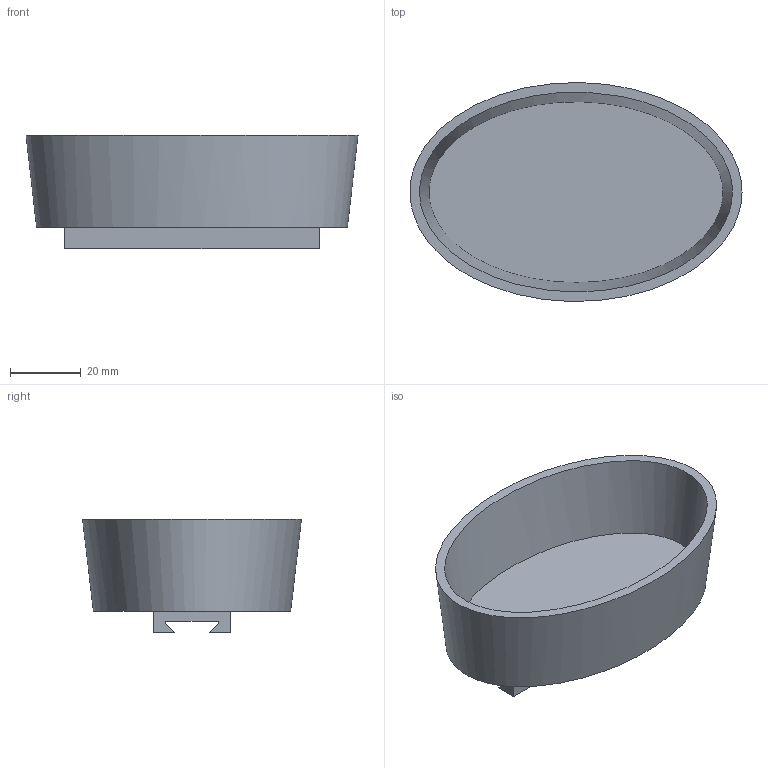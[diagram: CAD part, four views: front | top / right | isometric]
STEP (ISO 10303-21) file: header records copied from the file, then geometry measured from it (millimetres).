
FILE_DESCRIPTION(('Open CASCADE Model'),'2;1');
FILE_NAME('Open CASCADE Shape Model','2026-09-13T15:26:29',('Author'),( 'Open CASCADE'),'Open CASCADE STEP processor 7.9','build123d', 'Unknown');
FILE_SCHEMA(('AUTOMOTIVE_DESIGN { 1 0 10303 214 1 1 1 1 }'));
Length unit declared in the file: millimetre
Products named in the file (2): =>[0:1:1:2]; COMPOUND
Assembly tree (1 placements, depth 2):
  =>[0:1:1:2]
    COMPOUND
Bounding box: 93.99 x 61.98 x 32 mm (x, y, z)
Volume: 31864.6 mm3; surface area: 21324.5 mm2
Topology: 1 solids, 1 shells, 16 faces, 36 edges, 24 vertices
Faces by surface type: plane 14, bspline 2
Entity records: 1422 total; most frequent: CARTESIAN_POINT 713, DIRECTION 106, ORIENTED_EDGE 72, PCURVE 72, DEFINITIONAL_REPRESENTATION 72, LINE 65, VECTOR 65, B_SPLINE_CURVE_WITH_KNOTS 37
